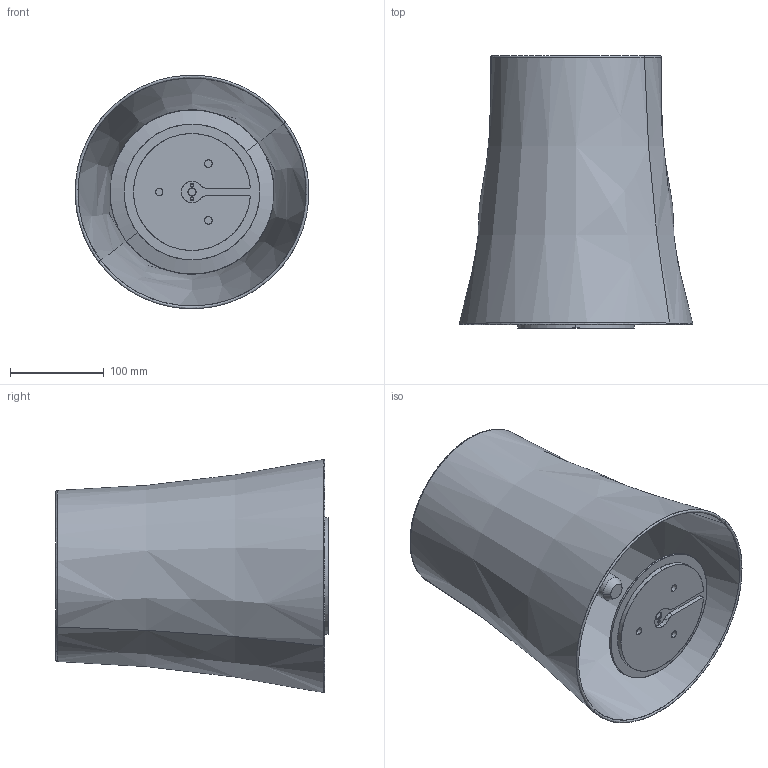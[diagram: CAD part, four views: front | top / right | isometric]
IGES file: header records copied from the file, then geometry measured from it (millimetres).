
Start section: SolidWorks IGES file using analytic representation for surfaces
Global section: file name: F:\foscarini\RS\0_ 2D-3D\BIRDIE\3d (stp,igs,3ds,dxf)\IGS\BIRDIE 0 GRANDE TAVOLO.IGS; native system: SolidWorks 2020; preprocessor: SolidWorks 2020; author: m.tonasso; date: 200715.095252; units: millimetre
Bounding box: 249.45 x 290.8 x 249.29 mm (x, y, z)
Surface area: 512458.2 mm2 (no closed solid volume)
Topology: 0 solids, 0 shells, 92 faces, 1850 edges, 1849 vertices
Faces by surface type: revolution 54, bspline 38
